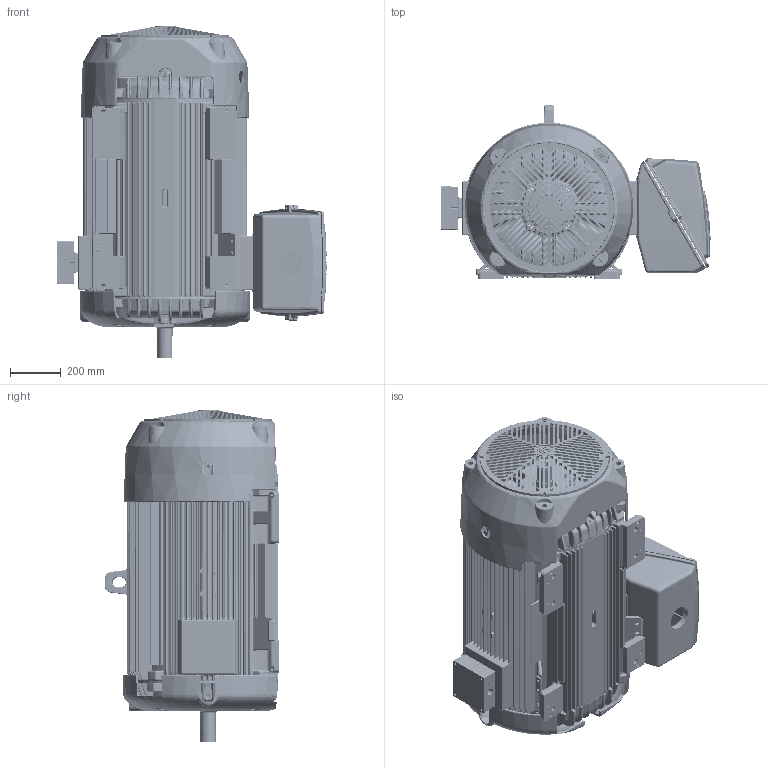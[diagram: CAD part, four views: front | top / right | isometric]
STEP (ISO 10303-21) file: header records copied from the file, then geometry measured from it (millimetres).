
FILE_DESCRIPTION((''),'2;1');
FILE_NAME('449_J_ASM','2016-04-27T',('emd2341'),('Nidec Motor Corporation'),'PRO/ENGINEER BY PARAMETRIC TECHNOLOGY CORPORATION, 2013150','PRO/ENGINEER BY PARAMETRIC TECHNOLOGY CORPORATION, 2013150','');
FILE_SCHEMA(('CONFIG_CONTROL_DESIGN'));
Length unit declared in the file: inch
Products named in the file (15): 2023070; 0965127; 2023069; 0389232; 0393790; 0866307-RC; 0411031; 0890157; 0890149; 0830745; 0809183; 0809189; 0809188; 2023024; 449_J_ASM
Assembly tree (14 placements, depth 2):
  449_J_ASM
    2023070
    0965127
    2023069
    0389232
    0393790
    0866307-RC
    0411031
    0890157
    0890149
    0830745
    0809183
    0809189
    0809188
    2023024
Bounding box: 1058.9 x 684.16 x 1305.18 mm (x, y, z)
Volume: 78376282.5 mm3; surface area: 13627428.2 mm2
Topology: 14 solids, 14 shells, 10686 faces, 25683 edges, 14925 vertices
Faces by surface type: bspline 4169, cylinder 2614, plane 1880, torus 950, sphere 500, cone 436, extrusion 116, revolution 21
Entity records: 535369 total; most frequent: CARTESIAN_POINT 319165, ORIENTED_EDGE 51222, DIRECTION 37348, EDGE_CURVE 25611, AXIS2_PLACEMENT_3D 15709, VERTEX_POINT 14925, EDGE_LOOP 11090, FACE_OUTER_BOUND 10686
